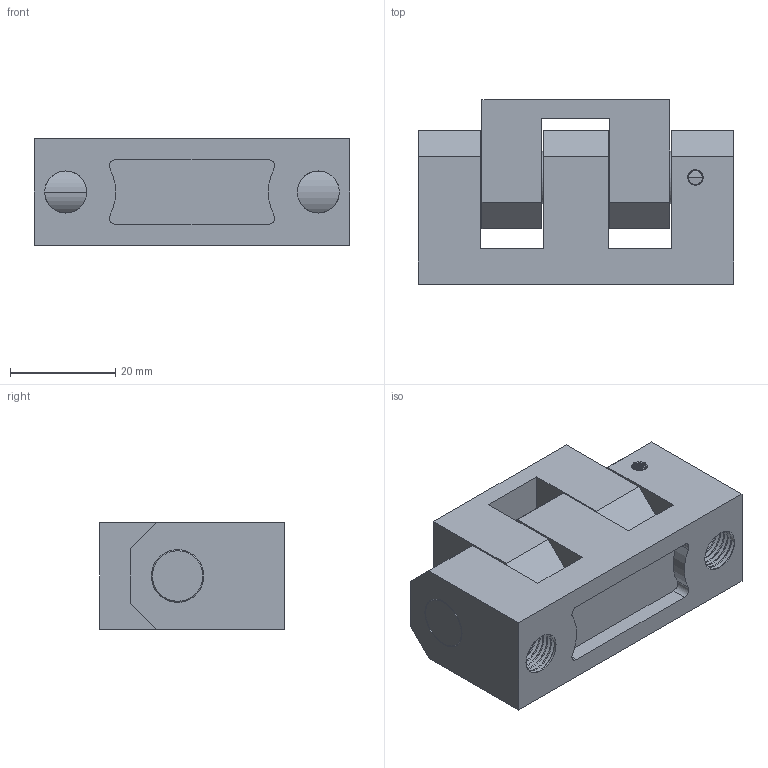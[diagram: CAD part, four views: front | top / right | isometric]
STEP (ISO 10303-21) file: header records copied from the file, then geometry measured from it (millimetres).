
FILE_DESCRIPTION (( 'STEP AP203' ), '1' );
FILE_NAME ('XG02-002-1.STEP', '2023-12-06T00:27:29', ( '' ), ( '' ), 'SwSTEP 2.0', 'SolidWorks 2020', '' );
FILE_SCHEMA (( 'CONFIG_CONTROL_DESIGN' ));
Length unit declared in the file: millimetre
Products named in the file (1): XG02-002-1
Bounding box: 60 x 35.05 x 20.3 mm (x, y, z)
Volume: 33108.5 mm3; surface area: 17062.2 mm2
Topology: 3 solids, 3 shells, 299 faces, 856 edges, 564 vertices
Faces by surface type: cylinder 219, plane 51, bspline 25, cone 4
Entity records: 26452 total; most frequent: CARTESIAN_POINT 19929, ORIENTED_EDGE 1712, DIRECTION 995, EDGE_CURVE 856, VERTEX_POINT 564, VECTOR 337, LINE 337, AXIS2_PLACEMENT_3D 329
